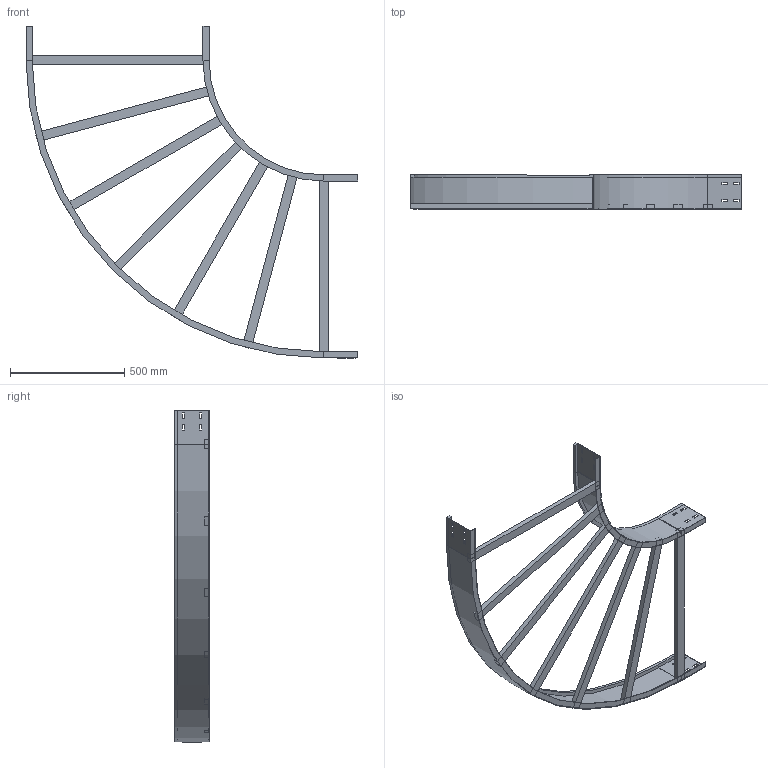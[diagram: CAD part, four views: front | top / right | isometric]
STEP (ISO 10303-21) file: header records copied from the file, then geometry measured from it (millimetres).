
FILE_DESCRIPTION (( 'STEP AP214' ), '1' );
FILE_NAME ('10J5F800.step', '2025-02-21T16:25:30', ( '' ), ( '' ), 'SwSTEP 2.0', 'SolidWorks 2023', '' );
FILE_SCHEMA (( 'AUTOMOTIVE_DESIGN' ));
Length unit declared in the file: millimetre
Products named in the file (4): TRAVERSINO_800; 10J5F800; LONGH.ESTERNO 90°_H150_R500+800; LONGH.INTERNO 90°_H150_R500
Assembly tree (9 placements, depth 2):
  10J5F800
    LONGH.INTERNO 90°_H150_R500
    LONGH.ESTERNO 90°_H150_R500+800
    TRAVERSINO_800  x7
Bounding box: 1450 x 150 x 1450 mm (x, y, z)
Volume: 6363788.9 mm3; surface area: 2005685.3 mm2
Topology: 9 solids, 9 shells, 158 faces, 388 edges, 248 vertices
Faces by surface type: plane 150, cylinder 8
Entity records: 3853 total; most frequent: CARTESIAN_POINT 650, ORIENTED_EDGE 632, DIRECTION 600, EDGE_CURVE 316, LINE 300, VECTOR 300, VERTEX_POINT 200, EDGE_LOOP 154
